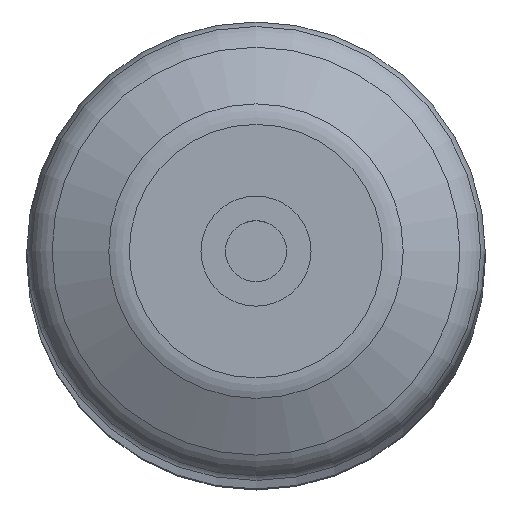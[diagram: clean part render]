
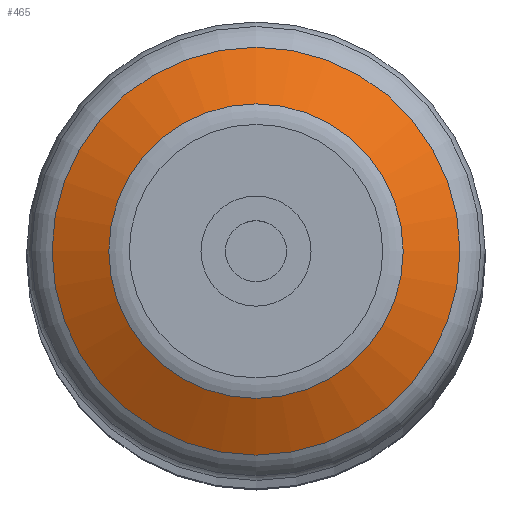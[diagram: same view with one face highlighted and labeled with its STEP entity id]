
A CAD part, top view. The second image highlights one B-rep face of the part: STEP entity #465.
In plain terms, the highlighted conical face has half-angle 63.435 degrees and reference radius 20 mm.
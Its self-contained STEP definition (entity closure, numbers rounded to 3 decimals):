
#15=CONICAL_SURFACE('',#558,20.,1.107);
#63=FACE_OUTER_BOUND('',#98,.T.);
#98=EDGE_LOOP('',(#368,#369,#370,#371,#372));
#118=LINE('',#848,#131);
#131=VECTOR('',#709,20.);
#172=CIRCLE('',#554,16.056);
#175=CIRCLE('',#557,16.056);
#176=CIRCLE('',#559,22.236);
#211=VERTEX_POINT('',#838);
#212=VERTEX_POINT('',#839);
#214=VERTEX_POINT('',#846);
#264=EDGE_CURVE('',#211,#212,#172,.T.);
#267=EDGE_CURVE('',#212,#211,#175,.T.);
#268=EDGE_CURVE('',#214,#214,#176,.T.);
#269=EDGE_CURVE('',#214,#211,#118,.T.);
#368=ORIENTED_EDGE('',*,*,#268,.F.);
#369=ORIENTED_EDGE('',*,*,#269,.T.);
#370=ORIENTED_EDGE('',*,*,#267,.F.);
#371=ORIENTED_EDGE('',*,*,#264,.F.);
#372=ORIENTED_EDGE('',*,*,#269,.F.);
#465=ADVANCED_FACE('',(#63),#15,.T.);
#554=AXIS2_PLACEMENT_3D('',#840,#697,#698);
#557=AXIS2_PLACEMENT_3D('',#844,#703,#704);
#558=AXIS2_PLACEMENT_3D('',#845,#705,#706);
#559=AXIS2_PLACEMENT_3D('',#847,#707,#708);
#697=DIRECTION('center_axis',(0.,0.,1.));
#698=DIRECTION('ref_axis',(1.,0.,0.));
#703=DIRECTION('center_axis',(0.,0.,1.));
#704=DIRECTION('ref_axis',(1.,0.,0.));
#705=DIRECTION('center_axis',(0.,0.,-1.));
#706=DIRECTION('ref_axis',(1.,0.,0.));
#707=DIRECTION('center_axis',(0.,0.,-1.));
#708=DIRECTION('ref_axis',(1.,0.,0.));
#709=DIRECTION('',(0.894,0.,0.447));
#838=CARTESIAN_POINT('',(-16.056,0.,608.972));
#839=CARTESIAN_POINT('',(16.056,0.,608.972));
#840=CARTESIAN_POINT('Origin',(0.,0.,608.972));
#844=CARTESIAN_POINT('Origin',(0.,0.,608.972));
#845=CARTESIAN_POINT('Origin',(0.,0.,607.));
#846=CARTESIAN_POINT('',(-22.236,0.,605.882));
#847=CARTESIAN_POINT('Origin',(0.,0.,605.882));
#848=CARTESIAN_POINT('',(-20.,0.,607.));
